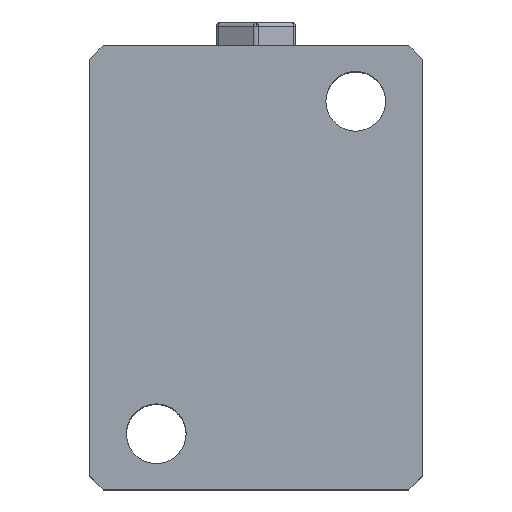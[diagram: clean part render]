
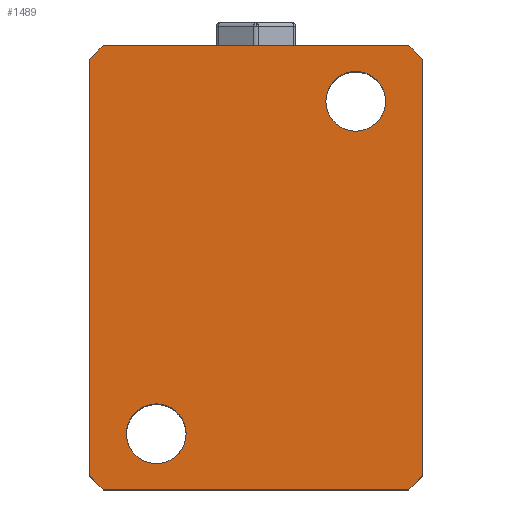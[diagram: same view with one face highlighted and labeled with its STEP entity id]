
A CAD part, top view. The second image highlights one B-rep face of the part: STEP entity #1489.
In plain terms, the highlighted planar face has unit normal (0, 0, 1).
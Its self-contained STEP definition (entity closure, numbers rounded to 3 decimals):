
#19 = CARTESIAN_POINT ( 'NONE',  ( 37.5, -47., 105. ) ) ;
#48 = DIRECTION ( 'NONE',  ( -1., 0., 0. ) ) ;
#54 = DIRECTION ( 'NONE',  ( 0., 0., -1. ) ) ;
#148 = CIRCLE ( 'NONE', #373, 6.75 ) ;
#149 = AXIS2_PLACEMENT_3D ( 'NONE', #2351, #1185, #231 ) ;
#158 = LINE ( 'NONE', #206, #1985 ) ;
#171 = ORIENTED_EDGE ( 'NONE', *, *, #2790, .T. ) ;
#186 = CARTESIAN_POINT ( 'NONE',  ( 0., 0., 105. ) ) ;
#206 = CARTESIAN_POINT ( 'NONE',  ( -37.5, 47., 105. ) ) ;
#227 = CARTESIAN_POINT ( 'NONE',  ( -37.5, 47., 105. ) ) ;
#228 = PLANE ( 'NONE',  #306 ) ;
#231 = DIRECTION ( 'NONE',  ( -1., 0., 0. ) ) ;
#232 = DIRECTION ( 'NONE',  ( 0., 0., -1. ) ) ;
#233 = EDGE_CURVE ( 'NONE', #2926, #1228, #3003, .T. ) ;
#281 = ORIENTED_EDGE ( 'NONE', *, *, #2093, .T. ) ;
#306 = AXIS2_PLACEMENT_3D ( 'NONE', #186, #54, #48 ) ;
#339 = VECTOR ( 'NONE', #1490, 1000. ) ;
#373 = AXIS2_PLACEMENT_3D ( 'NONE', #1657, #232, #1891 ) ;
#376 = CARTESIAN_POINT ( 'NONE',  ( 15.75, 37.5, 105. ) ) ;
#446 = DIRECTION ( 'NONE',  ( 0.707, 0.707, 0. ) ) ;
#449 = CARTESIAN_POINT ( 'NONE',  ( 34.5, 50., 105. ) ) ;
#518 = CIRCLE ( 'NONE', #2829, 6.75 ) ;
#524 = DIRECTION ( 'NONE',  ( 0., -1., 0. ) ) ;
#574 = VECTOR ( 'NONE', #446, 1000. ) ;
#582 = VERTEX_POINT ( 'NONE', #1173 ) ;
#681 = DIRECTION ( 'NONE',  ( -1., 0., 0. ) ) ;
#682 = FACE_BOUND ( 'NONE', #1631, .T. ) ;
#689 = LINE ( 'NONE', #1436, #1023 ) ;
#700 = VERTEX_POINT ( 'NONE', #978 ) ;
#710 = ORIENTED_EDGE ( 'NONE', *, *, #233, .T. ) ;
#727 = CIRCLE ( 'NONE', #149, 6.75 ) ;
#748 = ORIENTED_EDGE ( 'NONE', *, *, #2233, .T. ) ;
#768 = CARTESIAN_POINT ( 'NONE',  ( -22.5, -37.5, 105. ) ) ;
#792 = LINE ( 'NONE', #449, #1971 ) ;
#843 = ORIENTED_EDGE ( 'NONE', *, *, #2927, .T. ) ;
#937 = LINE ( 'NONE', #1655, #2951 ) ;
#943 = EDGE_LOOP ( 'NONE', ( #1537, #1995, #281, #1962, #1954, #748, #710, #171 ) ) ;
#952 = EDGE_LOOP ( 'NONE', ( #3001, #2217 ) ) ;
#953 = CARTESIAN_POINT ( 'NONE',  ( -34.5, 50., 105. ) ) ;
#978 = CARTESIAN_POINT ( 'NONE',  ( -15.75, -37.5, 105. ) ) ;
#984 = EDGE_CURVE ( 'NONE', #2110, #2885, #689, .T. ) ;
#1013 = CARTESIAN_POINT ( 'NONE',  ( -29.25, -37.5, 105. ) ) ;
#1023 = VECTOR ( 'NONE', #2072, 1000. ) ;
#1051 = DIRECTION ( 'NONE',  ( -1., 0., 0. ) ) ;
#1081 = EDGE_CURVE ( 'NONE', #700, #1589, #518, .T. ) ;
#1109 = CIRCLE ( 'NONE', #1504, 6.75 ) ;
#1135 = VERTEX_POINT ( 'NONE', #376 ) ;
#1173 = CARTESIAN_POINT ( 'NONE',  ( 34.5, 50., 105. ) ) ;
#1185 = DIRECTION ( 'NONE',  ( 0., 0., -1. ) ) ;
#1207 = FACE_OUTER_BOUND ( 'NONE', #943, .T. ) ;
#1220 = CARTESIAN_POINT ( 'NONE',  ( -22.5, -37.5, 105. ) ) ;
#1228 = VERTEX_POINT ( 'NONE', #2406 ) ;
#1242 = CARTESIAN_POINT ( 'NONE',  ( -34.5, -50., 105. ) ) ;
#1244 = DIRECTION ( 'NONE',  ( 0., 0., -1. ) ) ;
#1254 = EDGE_CURVE ( 'NONE', #2880, #2855, #2592, .T. ) ;
#1291 = CARTESIAN_POINT ( 'NONE',  ( 37.5, 47., 105. ) ) ;
#1436 = CARTESIAN_POINT ( 'NONE',  ( -37.5, -47., 105. ) ) ;
#1472 = DIRECTION ( 'NONE',  ( -1., 0., 0. ) ) ;
#1489 = ADVANCED_FACE ( 'NONE', ( #682, #2124, #1207 ), #228, .F. ) ;
#1490 = DIRECTION ( 'NONE',  ( 1., 0., 0. ) ) ;
#1504 = AXIS2_PLACEMENT_3D ( 'NONE', #1220, #2830, #1472 ) ;
#1506 = EDGE_CURVE ( 'NONE', #1135, #2805, #727, .T. ) ;
#1537 = ORIENTED_EDGE ( 'NONE', *, *, #2197, .T. ) ;
#1589 = VERTEX_POINT ( 'NONE', #1013 ) ;
#1631 = EDGE_LOOP ( 'NONE', ( #843, #1818 ) ) ;
#1655 = CARTESIAN_POINT ( 'NONE',  ( -34.5, 50., 105. ) ) ;
#1657 = CARTESIAN_POINT ( 'NONE',  ( 22.5, 37.5, 105. ) ) ;
#1818 = ORIENTED_EDGE ( 'NONE', *, *, #1081, .T. ) ;
#1882 = VECTOR ( 'NONE', #2963, 1000. ) ;
#1891 = DIRECTION ( 'NONE',  ( -1., 0., 0. ) ) ;
#1954 = ORIENTED_EDGE ( 'NONE', *, *, #2997, .T. ) ;
#1962 = ORIENTED_EDGE ( 'NONE', *, *, #984, .T. ) ;
#1971 = VECTOR ( 'NONE', #2102, 1000. ) ;
#1985 = VECTOR ( 'NONE', #524, 1000. ) ;
#1995 = ORIENTED_EDGE ( 'NONE', *, *, #1254, .T. ) ;
#2072 = DIRECTION ( 'NONE',  ( 0.707, -0.707, 0. ) ) ;
#2093 = EDGE_CURVE ( 'NONE', #2855, #2110, #158, .T. ) ;
#2102 = DIRECTION ( 'NONE',  ( -0.707, 0.707, 0. ) ) ;
#2110 = VERTEX_POINT ( 'NONE', #2942 ) ;
#2124 = FACE_BOUND ( 'NONE', #952, .T. ) ;
#2191 = CARTESIAN_POINT ( 'NONE',  ( -37.5, 47., 105. ) ) ;
#2197 = EDGE_CURVE ( 'NONE', #582, #2880, #937, .T. ) ;
#2202 = LINE ( 'NONE', #2991, #574 ) ;
#2212 = DIRECTION ( 'NONE',  ( -0.707, -0.707, 0. ) ) ;
#2217 = ORIENTED_EDGE ( 'NONE', *, *, #2835, .T. ) ;
#2233 = EDGE_CURVE ( 'NONE', #2697, #2926, #2202, .T. ) ;
#2351 = CARTESIAN_POINT ( 'NONE',  ( 22.5, 37.5, 105. ) ) ;
#2406 = CARTESIAN_POINT ( 'NONE',  ( 37.5, 47., 105. ) ) ;
#2590 = CARTESIAN_POINT ( 'NONE',  ( -34.5, -50., 105. ) ) ;
#2592 = LINE ( 'NONE', #2191, #2761 ) ;
#2697 = VERTEX_POINT ( 'NONE', #2944 ) ;
#2761 = VECTOR ( 'NONE', #2212, 1000. ) ;
#2790 = EDGE_CURVE ( 'NONE', #1228, #582, #792, .T. ) ;
#2805 = VERTEX_POINT ( 'NONE', #2994 ) ;
#2819 = LINE ( 'NONE', #1242, #339 ) ;
#2829 = AXIS2_PLACEMENT_3D ( 'NONE', #768, #1244, #1051 ) ;
#2830 = DIRECTION ( 'NONE',  ( 0., 0., -1. ) ) ;
#2835 = EDGE_CURVE ( 'NONE', #2805, #1135, #148, .T. ) ;
#2855 = VERTEX_POINT ( 'NONE', #227 ) ;
#2880 = VERTEX_POINT ( 'NONE', #953 ) ;
#2885 = VERTEX_POINT ( 'NONE', #2590 ) ;
#2926 = VERTEX_POINT ( 'NONE', #19 ) ;
#2927 = EDGE_CURVE ( 'NONE', #1589, #700, #1109, .T. ) ;
#2942 = CARTESIAN_POINT ( 'NONE',  ( -37.5, -47., 105. ) ) ;
#2944 = CARTESIAN_POINT ( 'NONE',  ( 34.5, -50., 105. ) ) ;
#2951 = VECTOR ( 'NONE', #681, 1000. ) ;
#2963 = DIRECTION ( 'NONE',  ( 0., 1., 0. ) ) ;
#2991 = CARTESIAN_POINT ( 'NONE',  ( 37.5, -47., 105. ) ) ;
#2994 = CARTESIAN_POINT ( 'NONE',  ( 29.25, 37.5, 105. ) ) ;
#2997 = EDGE_CURVE ( 'NONE', #2885, #2697, #2819, .T. ) ;
#3001 = ORIENTED_EDGE ( 'NONE', *, *, #1506, .T. ) ;
#3003 = LINE ( 'NONE', #1291, #1882 ) ;
